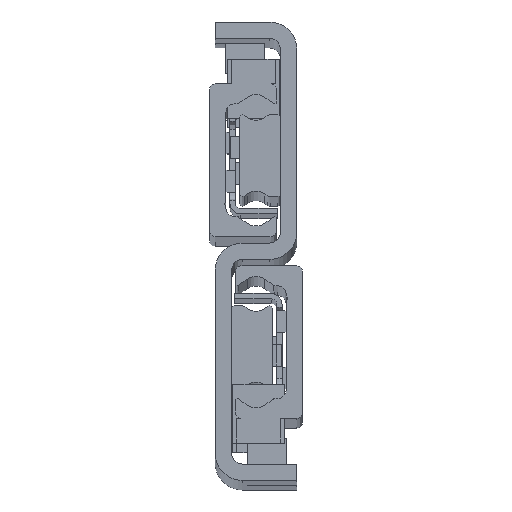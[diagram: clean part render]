
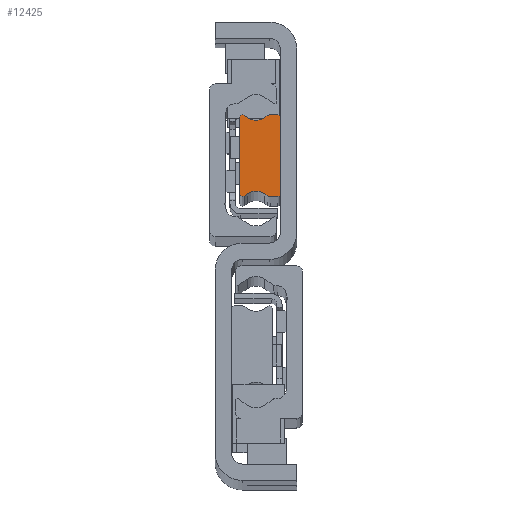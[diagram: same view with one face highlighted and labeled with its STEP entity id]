
A CAD part, top view. The second image highlights one B-rep face of the part: STEP entity #12425.
In plain terms, the highlighted planar face has unit normal (0, 0, 1) as drawn and (0, 0, -1) by its records, which use the part's own axes.
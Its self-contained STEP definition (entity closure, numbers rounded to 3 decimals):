
#84 = VECTOR ( 'NONE', #5375, 1000. ) ;
#139 = DIRECTION ( 'NONE',  ( 0., 0., 1. ) ) ;
#225 = AXIS2_PLACEMENT_3D ( 'NONE', #3634, #13020, #1360 ) ;
#388 = CARTESIAN_POINT ( 'NONE',  ( 1.873, 7.5, 0. ) ) ;
#458 = CARTESIAN_POINT ( 'NONE',  ( 2.907, -6.997, 0. ) ) ;
#648 = VERTEX_POINT ( 'NONE', #13983 ) ;
#882 = DIRECTION ( 'NONE',  ( -1., 0., 0. ) ) ;
#1041 = EDGE_CURVE ( 'NONE', #3224, #8183, #4641, .T. ) ;
#1062 = DIRECTION ( 'NONE',  ( 0., 0., 1. ) ) ;
#1081 = VERTEX_POINT ( 'NONE', #8479 ) ;
#1111 = ORIENTED_EDGE ( 'NONE', *, *, #3958, .F. ) ;
#1147 = CIRCLE ( 'NONE', #4577, 0.523 ) ;
#1293 = ORIENTED_EDGE ( 'NONE', *, *, #9959, .F. ) ;
#1360 = DIRECTION ( 'NONE',  ( -1., 0., 0. ) ) ;
#1458 = VERTEX_POINT ( 'NONE', #5648 ) ;
#1467 = PLANE ( 'NONE',  #225 ) ;
#1594 = DIRECTION ( 'NONE',  ( -1., 0., 0. ) ) ;
#1868 = ORIENTED_EDGE ( 'NONE', *, *, #6735, .F. ) ;
#1888 = CARTESIAN_POINT ( 'NONE',  ( 7.5, 6.977, 0. ) ) ;
#2032 = CARTESIAN_POINT ( 'NONE',  ( 0., -7., 0. ) ) ;
#2043 = LINE ( 'NONE', #458, #14028 ) ;
#2275 = VERTEX_POINT ( 'NONE', #13228 ) ;
#2782 = ORIENTED_EDGE ( 'NONE', *, *, #5037, .F. ) ;
#2964 = DIRECTION ( 'NONE',  ( 0., 0., 1. ) ) ;
#3021 = CARTESIAN_POINT ( 'NONE',  ( 0.5, 7., 0. ) ) ;
#3144 = ORIENTED_EDGE ( 'NONE', *, *, #9597, .F. ) ;
#3152 = LINE ( 'NONE', #10053, #84 ) ;
#3197 = AXIS2_PLACEMENT_3D ( 'NONE', #11135, #4208, #882 ) ;
#3224 = VERTEX_POINT ( 'NONE', #6446 ) ;
#3233 = AXIS2_PLACEMENT_3D ( 'NONE', #3021, #2964, #12168 ) ;
#3275 = CARTESIAN_POINT ( 'NONE',  ( 4.5, -9.272, 0. ) ) ;
#3384 = CARTESIAN_POINT ( 'NONE',  ( 2.907, 6.997, 0. ) ) ;
#3634 = CARTESIAN_POINT ( 'NONE',  ( 6.977, 6.977, 0. ) ) ;
#3695 = AXIS2_PLACEMENT_3D ( 'NONE', #4940, #6056, #14054 ) ;
#3731 = CIRCLE ( 'NONE', #7986, 2.778 ) ;
#3958 = EDGE_CURVE ( 'NONE', #14284, #2275, #11307, .T. ) ;
#3965 = VECTOR ( 'NONE', #10618, 1000. ) ;
#4208 = DIRECTION ( 'NONE',  ( 0., 0., 1. ) ) ;
#4242 = CARTESIAN_POINT ( 'NONE',  ( 6.677, 7.405, 0. ) ) ;
#4387 = CIRCLE ( 'NONE', #3233, 0.5 ) ;
#4498 = CARTESIAN_POINT ( 'NONE',  ( 7.5, 6.977, 0. ) ) ;
#4577 = AXIS2_PLACEMENT_3D ( 'NONE', #7016, #139, #9540 ) ;
#4641 = CIRCLE ( 'NONE', #5640, 1. ) ;
#4792 = CARTESIAN_POINT ( 'NONE',  ( 6.093, 6.997, 0. ) ) ;
#4940 = CARTESIAN_POINT ( 'NONE',  ( 6.977, -6.977, 0. ) ) ;
#5037 = EDGE_CURVE ( 'NONE', #14075, #3224, #3152, .T. ) ;
#5109 = FACE_OUTER_BOUND ( 'NONE', #14722, .T. ) ;
#5182 = CARTESIAN_POINT ( 'NONE',  ( 0.5, -7., 0. ) ) ;
#5206 = DIRECTION ( 'NONE',  ( 0., 0., -1. ) ) ;
#5237 = ORIENTED_EDGE ( 'NONE', *, *, #5484, .F. ) ;
#5303 = CARTESIAN_POINT ( 'NONE',  ( 0.5, -7.5, 0. ) ) ;
#5375 = DIRECTION ( 'NONE',  ( 1., 0., 0. ) ) ;
#5464 = VERTEX_POINT ( 'NONE', #388 ) ;
#5484 = EDGE_CURVE ( 'NONE', #5464, #1081, #7858, .T. ) ;
#5531 = EDGE_CURVE ( 'NONE', #648, #5669, #8573, .T. ) ;
#5587 = DIRECTION ( 'NONE',  ( 0., 0., -1. ) ) ;
#5594 = VERTEX_POINT ( 'NONE', #1888 ) ;
#5640 = AXIS2_PLACEMENT_3D ( 'NONE', #14908, #1062, #7928 ) ;
#5648 = CARTESIAN_POINT ( 'NONE',  ( 2.907, -6.997, 0. ) ) ;
#5669 = VERTEX_POINT ( 'NONE', #3384 ) ;
#5762 = CARTESIAN_POINT ( 'NONE',  ( 6.093, -6.997, 0. ) ) ;
#5804 = VECTOR ( 'NONE', #11430, 1000. ) ;
#5805 = VERTEX_POINT ( 'NONE', #9447 ) ;
#5821 = CARTESIAN_POINT ( 'NONE',  ( 6.677, -7.405, 0. ) ) ;
#5891 = AXIS2_PLACEMENT_3D ( 'NONE', #7661, #5206, #12262 ) ;
#6056 = DIRECTION ( 'NONE',  ( 0., 0., 1. ) ) ;
#6179 = CIRCLE ( 'NONE', #3197, 1. ) ;
#6231 = ORIENTED_EDGE ( 'NONE', *, *, #5531, .F. ) ;
#6446 = CARTESIAN_POINT ( 'NONE',  ( 1.873, -7.5, 0. ) ) ;
#6553 = LINE ( 'NONE', #4498, #5804 ) ;
#6671 = LINE ( 'NONE', #5821, #13587 ) ;
#6675 = LINE ( 'NONE', #8122, #13028 ) ;
#6735 = EDGE_CURVE ( 'NONE', #12332, #5464, #6179, .T. ) ;
#6975 = VERTEX_POINT ( 'NONE', #5762 ) ;
#7016 = CARTESIAN_POINT ( 'NONE',  ( 6.977, 6.977, 0. ) ) ;
#7462 = DIRECTION ( 'NONE',  ( -1., 0., 0. ) ) ;
#7525 = EDGE_CURVE ( 'NONE', #11765, #648, #12857, .T. ) ;
#7661 = CARTESIAN_POINT ( 'NONE',  ( 4.5, 9.272, 0. ) ) ;
#7793 = DIRECTION ( 'NONE',  ( 0., -1., 0. ) ) ;
#7858 = LINE ( 'NONE', #14322, #13307 ) ;
#7928 = DIRECTION ( 'NONE',  ( -1., 0., 0. ) ) ;
#7960 = CARTESIAN_POINT ( 'NONE',  ( 2.446, 7.319, 0. ) ) ;
#7986 = AXIS2_PLACEMENT_3D ( 'NONE', #3275, #5587, #10216 ) ;
#8025 = DIRECTION ( 'NONE',  ( -0.819, 0.574, 0. ) ) ;
#8122 = CARTESIAN_POINT ( 'NONE',  ( 2.446, 7.319, 0. ) ) ;
#8138 = EDGE_CURVE ( 'NONE', #5669, #12332, #6675, .T. ) ;
#8165 = DIRECTION ( 'NONE',  ( 0.819, -0.574, 0. ) ) ;
#8183 = VERTEX_POINT ( 'NONE', #13779 ) ;
#8479 = CARTESIAN_POINT ( 'NONE',  ( 0.5, 7.5, 0. ) ) ;
#8573 = CIRCLE ( 'NONE', #5891, 2.778 ) ;
#9036 = CARTESIAN_POINT ( 'NONE',  ( 6.677, -7.405, 0. ) ) ;
#9211 = ORIENTED_EDGE ( 'NONE', *, *, #12584, .F. ) ;
#9422 = EDGE_CURVE ( 'NONE', #5805, #5594, #6553, .T. ) ;
#9447 = CARTESIAN_POINT ( 'NONE',  ( 7.5, -6.977, 0. ) ) ;
#9540 = DIRECTION ( 'NONE',  ( -1., 0., 0. ) ) ;
#9597 = EDGE_CURVE ( 'NONE', #11760, #5805, #12437, .T. ) ;
#9768 = EDGE_CURVE ( 'NONE', #2275, #14075, #12640, .T. ) ;
#9959 = EDGE_CURVE ( 'NONE', #1458, #6975, #3731, .T. ) ;
#10053 = CARTESIAN_POINT ( 'NONE',  ( 1.873, -7.5, 0. ) ) ;
#10086 = ORIENTED_EDGE ( 'NONE', *, *, #1041, .F. ) ;
#10216 = DIRECTION ( 'NONE',  ( 1., 0., 0. ) ) ;
#10427 = ORIENTED_EDGE ( 'NONE', *, *, #8138, .F. ) ;
#10583 = VECTOR ( 'NONE', #7793, 1000. ) ;
#10618 = DIRECTION ( 'NONE',  ( -0.819, -0.574, 0. ) ) ;
#11135 = CARTESIAN_POINT ( 'NONE',  ( 1.873, 6.5, 0. ) ) ;
#11307 = LINE ( 'NONE', #2032, #10583 ) ;
#11430 = DIRECTION ( 'NONE',  ( 0., 1., 0. ) ) ;
#11444 = ORIENTED_EDGE ( 'NONE', *, *, #11978, .F. ) ;
#11760 = VERTEX_POINT ( 'NONE', #9036 ) ;
#11765 = VERTEX_POINT ( 'NONE', #4242 ) ;
#11821 = ORIENTED_EDGE ( 'NONE', *, *, #12778, .F. ) ;
#11978 = EDGE_CURVE ( 'NONE', #5594, #11765, #1147, .T. ) ;
#12168 = DIRECTION ( 'NONE',  ( -1., 0., 0. ) ) ;
#12262 = DIRECTION ( 'NONE',  ( 1., 0., 0. ) ) ;
#12332 = VERTEX_POINT ( 'NONE', #7960 ) ;
#12425 = ADVANCED_FACE ( 'NONE', ( #5109 ), #1467, .T. ) ;
#12437 = CIRCLE ( 'NONE', #3695, 0.523 ) ;
#12584 = EDGE_CURVE ( 'NONE', #8183, #1458, #2043, .T. ) ;
#12640 = CIRCLE ( 'NONE', #13436, 0.5 ) ;
#12778 = EDGE_CURVE ( 'NONE', #1081, #14284, #4387, .T. ) ;
#12857 = LINE ( 'NONE', #4792, #3965 ) ;
#12875 = ORIENTED_EDGE ( 'NONE', *, *, #14831, .F. ) ;
#12920 = ORIENTED_EDGE ( 'NONE', *, *, #7525, .F. ) ;
#13020 = DIRECTION ( 'NONE',  ( 0., 0., -1. ) ) ;
#13028 = VECTOR ( 'NONE', #8025, 1000. ) ;
#13228 = CARTESIAN_POINT ( 'NONE',  ( 0., -7., 0. ) ) ;
#13307 = VECTOR ( 'NONE', #1594, 1000. ) ;
#13436 = AXIS2_PLACEMENT_3D ( 'NONE', #5182, #14445, #7462 ) ;
#13587 = VECTOR ( 'NONE', #8165, 1000. ) ;
#13654 = ORIENTED_EDGE ( 'NONE', *, *, #9422, .F. ) ;
#13779 = CARTESIAN_POINT ( 'NONE',  ( 2.446, -7.319, 0. ) ) ;
#13983 = CARTESIAN_POINT ( 'NONE',  ( 6.093, 6.997, 0. ) ) ;
#14028 = VECTOR ( 'NONE', #14443, 1000. ) ;
#14054 = DIRECTION ( 'NONE',  ( -1., 0., 0. ) ) ;
#14075 = VERTEX_POINT ( 'NONE', #5303 ) ;
#14284 = VERTEX_POINT ( 'NONE', #14829 ) ;
#14322 = CARTESIAN_POINT ( 'NONE',  ( 0.5, 7.5, 0. ) ) ;
#14443 = DIRECTION ( 'NONE',  ( 0.819, 0.574, 0. ) ) ;
#14445 = DIRECTION ( 'NONE',  ( 0., 0., 1. ) ) ;
#14722 = EDGE_LOOP ( 'NONE', ( #11444, #13654, #3144, #12875, #1293, #9211, #10086, #2782, #14809, #1111, #11821, #5237, #1868, #10427, #6231, #12920 ) ) ;
#14809 = ORIENTED_EDGE ( 'NONE', *, *, #9768, .F. ) ;
#14829 = CARTESIAN_POINT ( 'NONE',  ( 0., 7., 0. ) ) ;
#14831 = EDGE_CURVE ( 'NONE', #6975, #11760, #6671, .T. ) ;
#14908 = CARTESIAN_POINT ( 'NONE',  ( 1.873, -6.5, 0. ) ) ;
